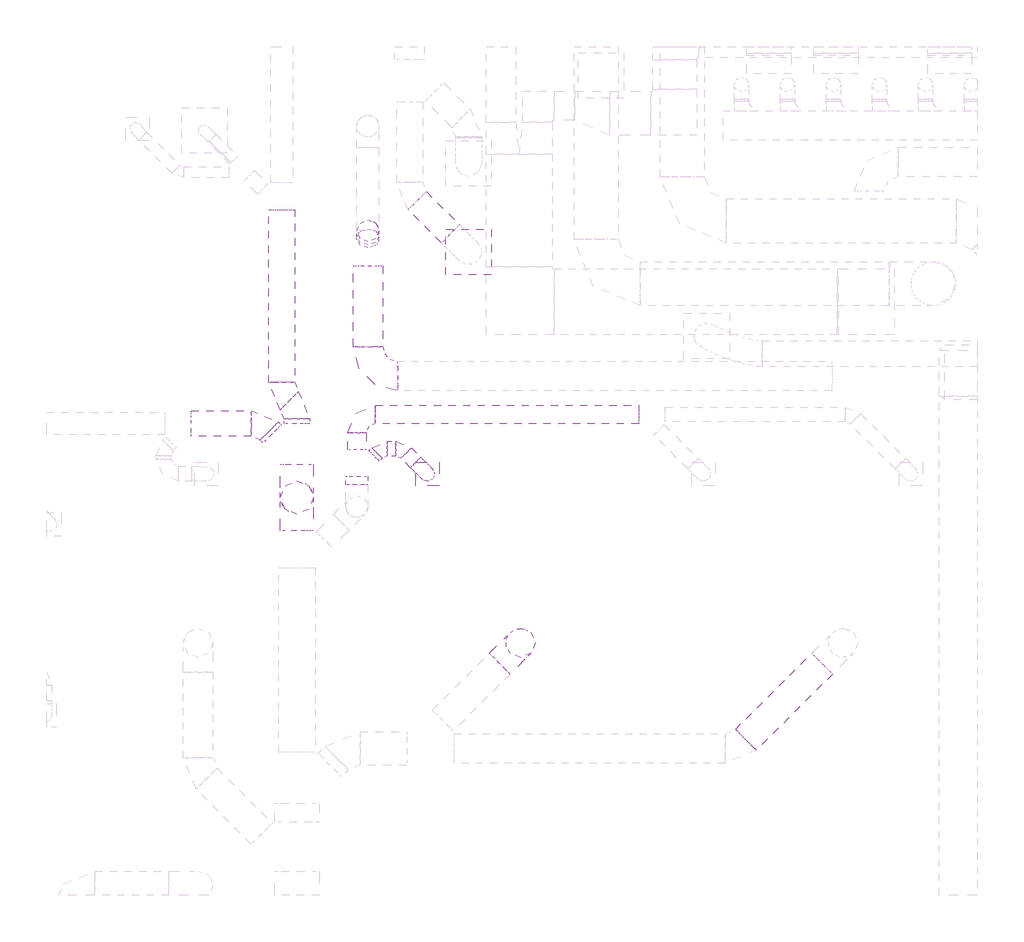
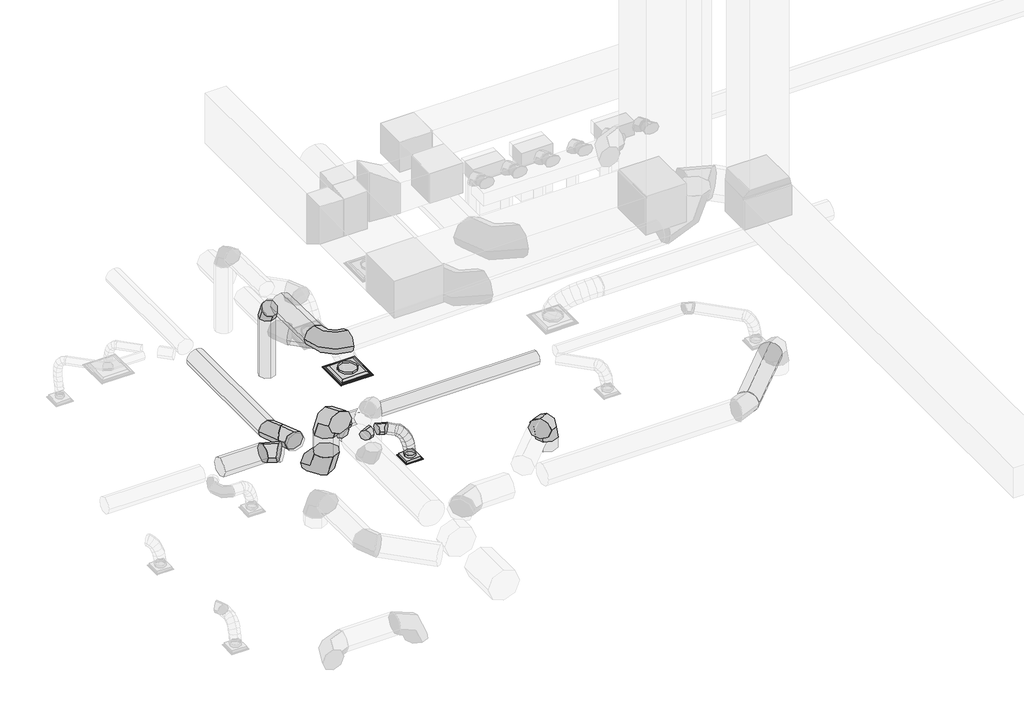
# One storey, part 9 of 33: 18 duct segments, 11 duct fittings, 2 air terminals.
"""IFC4 building model written with IfcOpenShell, lengths in millimetres."""

from ifc_helpers import new_model, si_unit, point, frame, frame_2d, origin, place, context, project, spatial, circle_curve, ellipse_curve, trimmed, segment, composite_curve, outline, extrude, transform, mapped, element, save
from ifc_brep_helpers import plane_surface, cylinder_surface, advanced_brep
from components import air_terminal_1ddfe03e, air_terminal_0721d01d, round_elbow_1_d_ed39a6e1, round_elbow_1_d_20c19032, round_elbow_1_d_8aca8b6e, round_elbow_1_d_146a3901, round_elbow_1_d_6fec3262, round_elbow_1_d_ab3aa7ba, round_elbow_1_d_f1b293c8

model = new_model("IFC4")

# Units and contexts
model_context = context("Model", 3, world=origin())
ifc_project = project(units=[si_unit("LENGTHUNIT", "METRE", prefix="MILLI")], contexts=[model_context])

# Site, building, storey
site = spatial("IfcSite", under=ifc_project)
building = spatial("IfcBuilding", under=site)
storey = spatial("IfcBuildingStorey", under=building, Name="T.O. SLAB - 1ST", Elevation=-25.4)

# Air terminals
placement = place(None, origin())
air_terminal_shape = air_terminal_1ddfe03e(model_context)
element("IfcAirTerminal", 1, ObjectType="Titus-Round_Neck_Supply_Diffuser-PCS_Surface_Mount : PCS AA-14_24x24", at=placement, inside=storey, context=model_context, shape_type="MappedRepresentation", body=[
    mapped(air_terminal_shape, transform((11455.4, 23456.8034288, 2717.8), x_axis=(0.0, -1.0, 0.0), y_axis=(-1.0, 0.0, 0.0), z_axis=(0.0, 0.0, -1.0))),
])
air_terminal_2_shape = air_terminal_0721d01d(model_context)
element("IfcAirTerminal", 2, ObjectType="Titus-Round_Neck_Supply_Diffuser-PCS_Surface_Mount : PCS AA-08_12x12", at=placement, inside=storey, context=model_context, shape_type="MappedRepresentation", body=[
    mapped(air_terminal_2_shape, transform((10884.0049003, 20392.8311449, 3022.6), x_axis=(1.0, 0.0, 0.0), y_axis=(0.0, -1.0, 0.0), z_axis=(0.0, 0.0, -1.0))),
])

# Duct fittings
round_elbow_1_d_shape = round_elbow_1_d_ed39a6e1(model_context)
element("IfcDuctFitting", 3, ObjectType="Round Elbow : 1 D", at=placement, inside=storey, context=model_context, shape_type="MappedRepresentation", body=[
    mapped(round_elbow_1_d_shape, transform((10064.75, 23748.1936947, 4263.7026636), x_axis=(0.0, 0.692225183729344, -0.7216815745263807), y_axis=(0.0, -0.7216815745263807, -0.692225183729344), z_axis=(-1.0, 0.0, 0.0))),
])
round_elbow_1_d_2_shape = round_elbow_1_d_20c19032(model_context)
element("IfcDuctFitting", 4, ObjectType="Round Elbow : 1 D", at=placement, inside=storey, context=model_context, shape_type="MappedRepresentation", body=[
    mapped(round_elbow_1_d_2_shape, transform((10064.75, 21745.3274801, 4719.4770963), x_axis=(0.0, -0.999999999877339, -1.566276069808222e-05), y_axis=(0.9997830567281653, -3.2623672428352e-07, 0.02082881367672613), z_axis=(-0.020828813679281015, -1.5659362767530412e-05, 0.9997830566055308))),
])
round_elbow_1_d_3_shape = round_elbow_1_d_8aca8b6e(model_context)
element("IfcDuctFitting", 5, ObjectType="Round Elbow : 1 D", at=placement, inside=storey, context=model_context, shape_type="MappedRepresentation", body=[
    mapped(round_elbow_1_d_3_shape, transform((12171.7949062, 18061.5163475, 4832.35), x_axis=(0.0, 0.0, 1.0), y_axis=(-0.7075361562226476, -0.7066771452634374, 0.0), z_axis=(0.7066771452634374, -0.7075361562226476, 0.0))),
])
round_elbow_1_d_4_shape = round_elbow_1_d_146a3901(model_context)
element("IfcDuctFitting", 6, ObjectType="Round Elbow : 1 D", at=placement, inside=storey, context=model_context, shape_type="MappedRepresentation", body=[
    mapped(round_elbow_1_d_4_shape, transform((8598.498594, 21089.8177486, 3530.6), x_axis=(-0.7071067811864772, 0.7071067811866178, 0.0), y_axis=(-0.7071067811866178, -0.7071067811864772, 0.0), z_axis=(0.0, 0.0, 1.0))),
])
element("IfcDuctFitting", 7, ObjectType="Round Elbow : 1 D", at=placement, inside=storey, context=model_context, shape_type="MappedRepresentation", body=[
    mapped(round_elbow_1_d_4_shape, transform((9084.7808702, 21300.5741915, 3530.6), x_axis=(0.0, 1.0, 0.0), y_axis=(-1.0, 0.0, 0.0), z_axis=(0.0, 0.0, 1.0))),
])
element("IfcDuctFitting", 8, ObjectType="Round Elbow : 1 D", at=placement, inside=storey, context=model_context, shape_type="MappedRepresentation", body=[
    mapped(round_elbow_1_d_4_shape, transform((8876.475213, 21508.8798487, 3530.6), x_axis=(0.0, -1.0, 0.0), y_axis=(1.0, 0.0, 0.0), z_axis=(0.0, 0.0, 1.0))),
])
round_elbow_1_d_5_shape = round_elbow_1_d_6fec3262(model_context)
element("IfcDuctFitting", 9, ObjectType="Round Elbow : 1 D", at=placement, inside=storey, context=model_context, shape_type="MappedRepresentation", body=[
    mapped(round_elbow_1_d_5_shape, transform((9912.239654, 21215.1568577, 3530.6), x_axis=(-1.0, 0.0, 0.0), y_axis=(0.0, -1.0, 0.0), z_axis=(0.0, 0.0, 1.0))),
])
round_elbow_1_d_6_shape = round_elbow_1_d_ab3aa7ba(model_context)
element("IfcDuctFitting", 10, ObjectType="Round Elbow : 1 D", at=placement, inside=storey, context=model_context, shape_type="MappedRepresentation", body=[
    mapped(round_elbow_1_d_6_shape, transform((10249.9603587, 20741.4649078, 3530.6), x_axis=(-1.0, 0.0, 0.0), y_axis=(0.0, -1.0, 0.0), z_axis=(0.0, 0.0, 1.0))),
])
element("IfcDuctFitting", 11, ObjectType="Round Elbow : 1 D", at=placement, inside=storey, context=model_context, shape_type="MappedRepresentation", body=[
    mapped(round_elbow_1_d_6_shape, transform((10534.229479, 20741.4649078, 3530.6), x_axis=(-0.7071067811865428, 0.7071067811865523, 0.0), y_axis=(-0.7071067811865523, -0.7071067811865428, 0.0), z_axis=(0.0, 0.0, 1.0))),
])
round_elbow_1_d_7_shape = round_elbow_1_d_f1b293c8(model_context)
element("IfcDuctFitting", 12, ObjectType="Round Elbow : 1 D", at=placement, inside=storey, context=model_context, shape_type="MappedRepresentation", body=[
    mapped(round_elbow_1_d_7_shape, transform((9084.7808702, 20068.1034636, 4832.35), x_axis=(0.0, 1.0, 0.0), y_axis=(0.0, 0.0, -1.0), z_axis=(-1.0, 0.0, 0.0))),
])
element("IfcDuctFitting", 13, ObjectType="Round Elbow : 1 D", at=placement, inside=storey, context=model_context, shape_type="MappedRepresentation", body=[
    mapped(round_elbow_1_d_7_shape, transform((9084.7808702, 20068.1034636, 3530.6), x_axis=(0.0, 0.0, -1.0), y_axis=(0.0, 1.0, 0.0), z_axis=(1.0, 0.0, 0.0))),
])

# Duct segments
element("IfcDuctSegment", 14, ObjectType="Flex - Round", at=placement, inside=storey, context=model_context, shape_type="AdvancedBrep", body=[
    advanced_brep(
    [(10794.9031176, 20624.4753671, 3530.6), (10723.0610686, 20552.6333181, 3429.0), (10651.2190197, 20480.7912692, 3530.6), (10723.0610686, 20552.6333181, 3632.2), (10813.9623399, 20605.4161449, 3530.6), (10726.9293043, 20548.7650825, 3429.0), (10670.3708762, 20461.6394127, 3530.6), (10757.4039117, 20518.2904751, 3632.2), (10955.6848348, 20464.8349433, 3117.85), (10956.0086987, 20321.1512103, 3117.85), (10812.3249657, 20320.8273465, 3117.85), (10812.0011019, 20464.5110794, 3117.85), (10845.2516527, 20574.2112087, 3510.9720908), (10733.6145356, 20542.097879, 3424.8063281), (10701.8015565, 20430.2934903, 3510.8834104), (10813.4386736, 20462.40682, 3597.049173), (10885.8084433, 20533.8656286, 3458.5724429), (10757.4093982, 20518.4269346, 3394.0632046), (10742.4381039, 20389.8685687, 3458.3807162), (10870.837149, 20405.3072628, 3522.8899545), (10916.8309708, 20503.1178168, 3383.2258257), (10779.416985, 20496.6142329, 3340.6118145), (10773.4895426, 20359.0921017, 3382.9638803), (10910.9035284, 20365.5956856, 3425.5778915), (10938.6179863, 20481.6056517, 3294.7597278), (10797.2762806, 20478.9802383, 3268.0942091), (10795.2754835, 20337.5809978, 3294.502146), (10936.6171891, 20340.2064112, 3321.1676647), (10951.4686114, 20468.9665349, 3203.0229329), (10808.3189988, 20468.1192721, 3189.263525), (10808.1151667, 20324.9526426, 3202.8434616), (10951.2647794, 20325.7999054, 3216.6028695), (10955.6848348, 20464.8349433, 3124.9070262), (10812.0011019, 20464.5110794, 3121.04351), (10812.3249657, 20320.8273465, 3124.8465827), (10956.0086987, 20321.1512103, 3128.7100989)],
    [
        (0, 1, circle_curve(frame((10723.0610686, 20552.6333181, 3530.6), z_axis=(-0.7071067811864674, 0.7071067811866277, 0.0), x_axis=(0.7071067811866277, 0.7071067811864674, 0.0)), 101.6)),
        (1, 2, circle_curve(frame((10723.0610686, 20552.6333181, 3530.6), z_axis=(-0.7071067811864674, 0.7071067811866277, 0.0), x_axis=(0.7071067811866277, 0.7071067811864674, 0.0)), 101.6)),
        (2, 3, circle_curve(frame((10723.0610686, 20552.6333181, 3530.6), z_axis=(-0.7071067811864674, 0.7071067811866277, 0.0), x_axis=(0.7071067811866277, 0.7071067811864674, 0.0)), 101.6)),
        (3, 0, circle_curve(frame((10723.0610686, 20552.6333181, 3530.6), z_axis=(-0.7071067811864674, 0.7071067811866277, 0.0), x_axis=(0.7071067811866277, 0.7071067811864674, 0.0)), 101.6)),
        (0, 4),
        (4, 5, ellipse_curve(frame((10742.166608, 20533.5277788, 3530.6), z_axis=(-0.6921655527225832, 0.6912736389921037, 0.2074791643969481), x_axis=(-0.14460797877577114, 0.14881322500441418, -0.9782347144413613)), 103.8600748, 101.6)),
        (5, 1),
        (5, 6, ellipse_curve(frame((10742.166608, 20533.5277788, 3530.6), z_axis=(-0.6921655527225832, 0.6912736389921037, 0.2074791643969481), x_axis=(-0.14460797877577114, 0.14881322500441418, -0.9782347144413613)), 103.8600748, 101.6)),
        (6, 2),
        (6, 7, ellipse_curve(frame((10742.166608, 20533.5277788, 3530.6), z_axis=(-0.6921655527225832, 0.6912736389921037, 0.2074791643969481), x_axis=(-0.14460797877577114, 0.14881322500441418, -0.9782347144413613)), 103.8600748, 101.6)),
        (7, 3),
        (7, 4, ellipse_curve(frame((10742.166608, 20533.5277788, 3530.6), z_axis=(-0.6921655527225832, 0.6912736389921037, 0.2074791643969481), x_axis=(-0.14460797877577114, 0.14881322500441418, -0.9782347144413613)), 103.8600748, 101.6)),
        (8, 9, circle_curve(frame((10884.0049003, 20392.8311449, 3117.85), z_axis=(0.0, 0.0, -1.0), x_axis=(0.7055111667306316, 0.7086988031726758, 0.0)), 101.6)),
        (9, 10, circle_curve(frame((10884.0049003, 20392.8311449, 3117.85), z_axis=(0.0, 0.0, -1.0), x_axis=(0.7055111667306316, 0.7086988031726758, 0.0)), 101.6)),
        (10, 11, circle_curve(frame((10884.0049003, 20392.8311449, 3117.85), z_axis=(0.0, 0.0, -1.0), x_axis=(0.7055111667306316, 0.7086988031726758, 0.0)), 101.6)),
        (11, 8, circle_curve(frame((10884.0049003, 20392.8311449, 3117.85), z_axis=(0.0, 0.0, -1.0), x_axis=(0.7055111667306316, 0.7086988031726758, 0.0)), 101.6)),
        (4, 12),
        (12, 13, ellipse_curve(frame((10773.5266046, 20502.2523495, 3510.9277506), z_axis=(-0.5926837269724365, 0.5904203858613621, 0.5478410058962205), x_axis=(-0.38586657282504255, 0.3889008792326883, -0.8365782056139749)), 102.9443578, 101.6)),
        (13, 5),
        (13, 14, ellipse_curve(frame((10773.5266046, 20502.2523495, 3510.9277506), z_axis=(-0.5926837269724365, 0.5904203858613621, 0.5478410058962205), x_axis=(-0.38586657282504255, 0.3889008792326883, -0.8365782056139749)), 102.9443578, 101.6)),
        (14, 6),
        (14, 15, ellipse_curve(frame((10773.5266046, 20502.2523495, 3510.9277506), z_axis=(-0.5926837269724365, 0.5904203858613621, 0.5478410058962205), x_axis=(-0.38586657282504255, 0.3889008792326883, -0.8365782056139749)), 102.9443578, 101.6)),
        (15, 7),
        (15, 12, ellipse_curve(frame((10773.5266046, 20502.2523495, 3510.9277506), z_axis=(-0.5926837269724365, 0.5904203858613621, 0.5478410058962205), x_axis=(-0.38586657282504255, 0.3889008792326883, -0.8365782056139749)), 102.9443578, 101.6)),
        (12, 16),
        (16, 17, ellipse_curve(frame((10814.1232736, 20461.8670987, 3458.4765796), z_axis=(-0.444618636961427, 0.4416459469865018, 0.7792708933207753), x_axis=(-0.5503164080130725, 0.5517428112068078, -0.6266831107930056)), 102.7840583, 101.6)),
        (17, 13),
        (17, 18, ellipse_curve(frame((10814.1232736, 20461.8670987, 3458.4765796), z_axis=(-0.444618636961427, 0.4416459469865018, 0.7792708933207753), x_axis=(-0.5503164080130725, 0.5517428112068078, -0.6266831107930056)), 102.7840583, 101.6)),
        (18, 14),
        (18, 19, ellipse_curve(frame((10814.1232736, 20461.8670987, 3458.4765796), z_axis=(-0.444618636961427, 0.4416459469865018, 0.7792708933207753), x_axis=(-0.5503164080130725, 0.5517428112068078, -0.6266831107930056)), 102.7840583, 101.6)),
        (19, 15),
        (19, 16, ellipse_curve(frame((10814.1232736, 20461.8670987, 3458.4765796), z_axis=(-0.444618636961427, 0.4416459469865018, 0.7792708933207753), x_axis=(-0.5503164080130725, 0.5517428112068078, -0.6266831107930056)), 102.7840583, 101.6)),
        (16, 20),
        (20, 21, ellipse_curve(frame((10845.1602567, 20431.1049592, 3383.094853), z_axis=(-0.29583299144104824, 0.29277372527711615, 0.9092669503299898), x_axis=(-0.6435186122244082, 0.6423806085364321, -0.41621022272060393)), 102.0708153, 101.6)),
        (21, 17),
        (21, 22, ellipse_curve(frame((10845.1602567, 20431.1049592, 3383.094853), z_axis=(-0.29583299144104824, 0.29277372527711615, 0.9092669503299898), x_axis=(-0.6435186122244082, 0.6423806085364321, -0.41621022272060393)), 102.0708153, 101.6)),
        (22, 18),
        (22, 23, ellipse_curve(frame((10845.1602567, 20431.1049592, 3383.094853), z_axis=(-0.29583299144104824, 0.29277372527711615, 0.9092669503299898), x_axis=(-0.6435186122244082, 0.6423806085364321, -0.41621022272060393)), 102.0708153, 101.6)),
        (23, 19),
        (23, 20, ellipse_curve(frame((10845.1602567, 20431.1049592, 3383.094853), z_axis=(-0.29583299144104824, 0.29277372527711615, 0.9092669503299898), x_axis=(-0.6435186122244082, 0.6423806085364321, -0.41621022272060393)), 102.0708153, 101.6)),
        (20, 24),
        (24, 25, ellipse_curve(frame((10866.9467349, 20409.5933247, 3294.6309369), z_axis=(-0.18554125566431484, 0.1829357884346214, 0.9654578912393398), x_axis=(-0.6850997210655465, 0.6802559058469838, -0.26055762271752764)), 101.8465218, 101.6)),
        (25, 21),
        (25, 26, ellipse_curve(frame((10866.9467349, 20409.5933247, 3294.6309369), z_axis=(-0.18554125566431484, 0.1829357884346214, 0.9654578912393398), x_axis=(-0.6850997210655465, 0.6802559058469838, -0.26055762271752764)), 101.8465218, 101.6)),
        (26, 22),
        (26, 27, ellipse_curve(frame((10866.9467349, 20409.5933247, 3294.6309369), z_axis=(-0.18554125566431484, 0.1829357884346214, 0.9654578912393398), x_axis=(-0.6850997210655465, 0.6802559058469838, -0.26055762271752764)), 101.8465218, 101.6)),
        (27, 23),
        (27, 24, ellipse_curve(frame((10866.9467349, 20409.5933247, 3294.6309369), z_axis=(-0.18554125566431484, 0.1829357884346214, 0.9654578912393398), x_axis=(-0.6850997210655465, 0.6802559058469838, -0.26055762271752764)), 101.8465218, 101.6)),
        (24, 28),
        (28, 29, ellipse_curve(frame((10879.7918891, 20396.9595888, 3202.9331972), z_axis=(-0.09580530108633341, 0.09413102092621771, 0.9909392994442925), x_axis=(-0.7056688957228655, 0.6956954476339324, -0.13431028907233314)), 101.7788553, 101.6)),
        (29, 25),
        (29, 30, ellipse_curve(frame((10879.7918891, 20396.9595888, 3202.9331972), z_axis=(-0.09580530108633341, 0.09413102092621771, 0.9909392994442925), x_axis=(-0.7056688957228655, 0.6956954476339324, -0.13431028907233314)), 101.7788553, 101.6)),
        (30, 26),
        (30, 31, ellipse_curve(frame((10879.7918891, 20396.9595888, 3202.9331972), z_axis=(-0.09580530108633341, 0.09413102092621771, 0.9909392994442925), x_axis=(-0.7056688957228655, 0.6956954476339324, -0.13431028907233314)), 101.7788553, 101.6)),
        (31, 27),
        (31, 28, ellipse_curve(frame((10879.7918891, 20396.9595888, 3202.9331972), z_axis=(-0.09580530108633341, 0.09413102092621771, 0.9909392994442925), x_axis=(-0.7056688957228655, 0.6956954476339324, -0.13431028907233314)), 101.7788553, 101.6)),
        (28, 32),
        (32, 33, ellipse_curve(frame((10884.0049003, 20392.8311449, 3124.8768044), z_axis=(-0.026929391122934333, 0.026388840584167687, 0.9992889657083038), x_axis=(-0.7137310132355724, 0.6994043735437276, -0.03770362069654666)), 101.6722925, 101.6)),
        (33, 29),
        (33, 34, ellipse_curve(frame((10884.0049003, 20392.8311449, 3124.8768044), z_axis=(-0.026929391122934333, 0.026388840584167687, 0.9992889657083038), x_axis=(-0.7137310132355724, 0.6994043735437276, -0.03770362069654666)), 101.6722925, 101.6)),
        (34, 30),
        (34, 35, ellipse_curve(frame((10884.0049003, 20392.8311449, 3124.8768044), z_axis=(-0.026929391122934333, 0.026388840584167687, 0.9992889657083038), x_axis=(-0.7137310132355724, 0.6994043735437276, -0.03770362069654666)), 101.6722925, 101.6)),
        (35, 31),
        (35, 32, ellipse_curve(frame((10884.0049003, 20392.8311449, 3124.8768044), z_axis=(-0.026929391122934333, 0.026388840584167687, 0.9992889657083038), x_axis=(-0.7137310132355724, 0.6994043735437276, -0.03770362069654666)), 101.6722925, 101.6)),
        (32, 8),
        (11, 33),
        (10, 34),
        (9, 35),
    ],
    [
        plane_surface(frame((10723.0610686, 20552.6333181, 3429.0), z_axis=(-0.7071067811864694, 0.7071067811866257, 0.0), x_axis=(0.7071067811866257, 0.7071067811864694, 0.0))),
        cylinder_surface(frame((10723.0610686, 20552.6333181, 3530.6), z_axis=(-0.7071067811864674, 0.7071067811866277, 0.0), x_axis=(0.7071067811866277, 0.7071067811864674, 0.0)), 101.6),
        plane_surface(frame((10884.0049003, 20291.2311449, 3117.85), z_axis=(0.0, 0.0, -1.0), x_axis=(-1.0, 0.0, 0.0))),
        cylinder_surface(frame((10742.166608, 20533.5277788, 3530.6), z_axis=(-0.6471002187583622, 0.6453552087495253, 0.4059285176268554), x_axis=(0.7062337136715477, 0.7079787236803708, 0.000261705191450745)), 101.6),
        cylinder_surface(frame((10773.5266046, 20502.2523495, 3510.9277506), z_axis=(-0.5227874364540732, 0.5200648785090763, 0.6754449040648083), x_axis=(0.7057301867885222, 0.7084803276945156, 0.000727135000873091)), 101.6),
        cylinder_surface(frame((10814.1232736, 20461.8670987, 3458.4765796), z_axis=(-0.35620594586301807, 0.35305161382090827, 0.8651426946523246), x_axis=(0.7054485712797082, 0.7087600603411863, 0.0012207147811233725)), 101.6),
        cylinder_surface(frame((10845.1602567, 20431.1049592, 3383.094853), z_axis=(-0.2327308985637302, 0.22979492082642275, 0.9450029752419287), x_axis=(0.7054020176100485, 0.7088061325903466, 0.0013638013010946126)), 101.6),
        cylinder_surface(frame((10866.9467349, 20409.5933247, 3294.6309369), z_axis=(-0.13745339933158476, 0.13519105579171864, 0.9812389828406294), x_axis=(0.7054396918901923, 0.7087689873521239, 0.0011677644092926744)), 101.6),
        cylinder_surface(frame((10879.7918891, 20396.9595888, 3202.9331972), z_axis=(-0.05382048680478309, 0.052740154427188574, 0.9971568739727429), x_axis=(0.7054951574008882, 0.7087144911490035, 0.0005940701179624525)), 101.6),
        cylinder_surface(frame((10884.0049003, 20392.8311449, 3124.8768044), z_axis=(0.0, 0.0, 1.0), x_axis=(0.7055111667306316, 0.7086988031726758, 0.0)), 101.6),
    ],
    [
        (0, [[1, 2, 3, 4]]),
        (1, [[-1, 5, 6, 7]]),
        (1, [[-2, -7, 8, 9]]),
        (1, [[-3, -9, 10, 11]]),
        (1, [[-4, -11, 12, -5]]),
        (2, [[13, 14, 15, 16]]),
        (3, [[-6, 17, 18, 19]]),
        (3, [[-8, -19, 20, 21]]),
        (3, [[-10, -21, 22, 23]]),
        (3, [[-12, -23, 24, -17]]),
        (4, [[-18, 25, 26, 27]]),
        (4, [[-20, -27, 28, 29]]),
        (4, [[-22, -29, 30, 31]]),
        (4, [[-24, -31, 32, -25]]),
        (5, [[-26, 33, 34, 35]]),
        (5, [[-28, -35, 36, 37]]),
        (5, [[-30, -37, 38, 39]]),
        (5, [[-32, -39, 40, -33]]),
        (6, [[-34, 41, 42, 43]]),
        (6, [[-36, -43, 44, 45]]),
        (6, [[-38, -45, 46, 47]]),
        (6, [[-40, -47, 48, -41]]),
        (7, [[-42, 49, 50, 51]]),
        (7, [[-44, -51, 52, 53]]),
        (7, [[-46, -53, 54, 55]]),
        (7, [[-48, -55, 56, -49]]),
        (8, [[-50, 57, 58, 59]]),
        (8, [[-52, -59, 60, 61]]),
        (8, [[-54, -61, 62, 63]]),
        (8, [[-56, -63, 64, -57]]),
        (9, [[-58, 65, -16, 66]]),
        (9, [[-60, -66, -15, 67]]),
        (9, [[-62, -67, -14, 68]]),
        (9, [[-64, -68, -13, -65]]),
    ],
),
])
element("IfcDuctSegment", 15, ObjectType="Taps", at=placement, inside=storey, context=model_context, shape_type="SweptSolid", body=[
    extrude(outline(composite_curve([segment(trimmed(circle_curve(frame_2d((0.0, 203.2)), 203.2), [point((203.2, 203.2))], [point((0.0, 0.0))], False, "CARTESIAN"), True, "CONTINUOUS"), segment(trimmed(circle_curve(frame_2d((0.0, 203.2)), 203.2), [point((0.0, 0.0))], [point((-203.2, 203.2))], False, "CARTESIAN"), True, "CONTINUOUS"), segment(trimmed(circle_curve(frame_2d((0.0, 203.2)), 203.2), [point((-203.2, 203.2))], [point((0.0, 406.4))], False, "CARTESIAN"), True, "CONTINUOUS"), segment(trimmed(circle_curve(frame_2d((0.0, 203.2)), 203.2), [point((0.0, 406.4))], [point((203.2, 203.2))], False, "CARTESIAN"), True, "CONTINUOUS")], self_intersect=False)), frame((15282.082352, 16722.930735, 5035.55), z_axis=(0.7073950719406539, 0.7068183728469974, 0.0), x_axis=(0.7068183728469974, -0.7073950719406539, 0.0)), (0.0, 0.0, 1.0), 1487.4996041),
])
element("IfcDuctSegment", 16, ObjectType="Taps", at=placement, inside=storey, context=model_context, shape_type="SweptSolid", body=[
    extrude(outline(composite_curve([segment(trimmed(circle_curve(frame_2d((12171.6204612, 18061.6910045)), 203.2), [point((12315.2172571, 17917.9196576))], [point((12027.8491143, 17918.0942086))], False, "CARTESIAN"), True, "CONTINUOUS"), segment(trimmed(circle_curve(frame_2d((12171.6204612, 18061.6910045)), 203.2), [point((12027.8491143, 17918.0942086))], [point((12028.0236653, 18205.4623515))], False, "CARTESIAN"), True, "CONTINUOUS"), segment(trimmed(circle_curve(frame_2d((12171.6204612, 18061.6910045)), 203.2), [point((12028.0236653, 18205.4623515))], [point((12315.3918082, 18205.2878004))], False, "CARTESIAN"), True, "CONTINUOUS"), segment(trimmed(circle_curve(frame_2d((12171.6204612, 18061.6910045)), 203.2), [point((12315.3918082, 18205.2878004))], [point((12315.2172571, 17917.9196576))], False, "CARTESIAN"), True, "CONTINUOUS")], self_intersect=False)), frame((0.0, 0.0, 4216.4), z_axis=(0.0, 0.0, 1.0), x_axis=(1.0, 0.0, 0.0)), (0.0, 0.0, 1.0), 209.55),
])
element("IfcDuctSegment", 17, ObjectType="Taps", at=placement, inside=storey, context=model_context, shape_type="SweptSolid", body=[
    extrude(outline(composite_curve([segment(trimmed(circle_curve(frame_2d((9084.7808702, 20068.1034636)), 228.6), [point((9313.3808702, 20068.1034636))], [point((9084.7808702, 19839.5034636))], False, "CARTESIAN"), True, "CONTINUOUS"), segment(trimmed(circle_curve(frame_2d((9084.7808702, 20068.1034636)), 228.6), [point((9084.7808702, 19839.5034636))], [point((8856.1808702, 20068.1034636))], False, "CARTESIAN"), True, "CONTINUOUS"), segment(trimmed(circle_curve(frame_2d((9084.7808702, 20068.1034636)), 228.6), [point((8856.1808702, 20068.1034636))], [point((9084.7808702, 20296.7034636))], False, "CARTESIAN"), True, "CONTINUOUS"), segment(trimmed(circle_curve(frame_2d((9084.7808702, 20068.1034636)), 228.6), [point((9084.7808702, 20296.7034636))], [point((9313.3808702, 20068.1034636))], False, "CARTESIAN"), True, "CONTINUOUS")], self_intersect=False)), frame((0.0, 0.0, 3987.8), z_axis=(0.0, 0.0, 1.0), x_axis=(1.0, 0.0, 0.0)), (0.0, 0.0, 1.0), 387.35),
])
element("IfcDuctSegment", 18, ObjectType="Taps", at=placement, inside=storey, context=model_context, shape_type="SweptSolid", body=[
    extrude(outline(composite_curve([segment(trimmed(circle_curve(frame_2d((21089.8177486, 3530.6)), 177.8), [point((20912.0177486, 3530.6))], [point((21089.8177486, 3708.4))], False, "CARTESIAN"), True, "CONTINUOUS"), segment(trimmed(circle_curve(frame_2d((21089.8177486, 3530.6)), 177.8), [point((21089.8177486, 3708.4))], [point((21267.6177486, 3530.6))], False, "CARTESIAN"), True, "CONTINUOUS"), segment(trimmed(circle_curve(frame_2d((21089.8177486, 3530.6)), 177.8), [point((21267.6177486, 3530.6))], [point((21089.8177486, 3352.8))], False, "CARTESIAN"), True, "CONTINUOUS"), segment(trimmed(circle_curve(frame_2d((21089.8177486, 3530.6)), 177.8), [point((21089.8177486, 3352.8))], [point((20912.0177486, 3530.6))], False, "CARTESIAN"), True, "CONTINUOUS")], self_intersect=False)), frame((7628.6846681, 0.0, 0.0), z_axis=(1.0, 0.0, 0.0), x_axis=(0.0, 1.0, 0.0)), (0.0, 0.0, 1.0), 822.5195832),
])
element("IfcDuctSegment", 19, ObjectType="Taps", at=placement, inside=storey, context=model_context, shape_type="SweptSolid", body=[
    extrude(outline(composite_curve([segment(trimmed(circle_curve(frame_2d((0.0, 177.8)), 177.8), [point((177.7999999, 177.8))], [point((0.0, 0.0))], False, "CARTESIAN"), True, "CONTINUOUS"), segment(trimmed(circle_curve(frame_2d((0.0, 177.8)), 177.8), [point((0.0, 0.0))], [point((-177.8, 177.8))], False, "CARTESIAN"), True, "CONTINUOUS"), segment(trimmed(circle_curve(frame_2d((0.0, 177.8)), 177.8), [point((-177.8, 177.8))], [point((0.0, 355.6))], False, "CARTESIAN"), True, "CONTINUOUS"), segment(trimmed(circle_curve(frame_2d((0.0, 177.8)), 177.8), [point((0.0, 355.6))], [point((177.7999999, 177.8))], False, "CARTESIAN"), True, "CONTINUOUS")], self_intersect=False)), frame((8740.7514227, 20947.56492, 3708.4), z_axis=(-0.7071067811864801, 0.7071067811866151, 0.0), x_axis=(0.7071067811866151, 0.7071067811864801, 0.0)), (0.0, 0.0, 1.0), 53.8815367),
])
element("IfcDuctSegment", 20, ObjectType="Taps", at=placement, inside=storey, context=model_context, shape_type="SweptSolid", body=[
    extrude(outline(composite_curve([segment(trimmed(circle_curve(frame_2d((3530.6, 9912.239654)), 152.4), [point((3530.6, 10064.639654))], [point((3683.0, 9912.239654))], False, "CARTESIAN"), True, "CONTINUOUS"), segment(trimmed(circle_curve(frame_2d((3530.6, 9912.239654)), 152.4), [point((3683.0, 9912.239654))], [point((3530.6, 9759.839654))], False, "CARTESIAN"), True, "CONTINUOUS"), segment(trimmed(circle_curve(frame_2d((3530.6, 9912.239654)), 152.4), [point((3530.6, 9759.839654))], [point((3378.2, 9912.239654))], False, "CARTESIAN"), True, "CONTINUOUS"), segment(trimmed(circle_curve(frame_2d((3530.6, 9912.239654)), 152.4), [point((3378.2, 9912.239654))], [point((3530.6, 10064.639654))], False, "CARTESIAN"), True, "CONTINUOUS")], self_intersect=False)), frame((0.0, 20245.7173696, 0.0), z_axis=(0.0, 1.0, 0.0), x_axis=(0.0, 0.0, 1.0)), (0.0, 0.0, 1.0), 112.4603994),
])
element("IfcDuctSegment", 21, ObjectType="Taps", at=placement, inside=storey, context=model_context, shape_type="SweptSolid", body=[
    extrude(outline(composite_curve([segment(trimmed(circle_curve(frame_2d((0.0, 101.6)), 101.6), [point((101.6, 101.6))], [point((0.0, 0.0))], False, "CARTESIAN"), True, "CONTINUOUS"), segment(trimmed(circle_curve(frame_2d((0.0, 101.6)), 101.6), [point((0.0, 0.0))], [point((-101.5999999, 101.6))], False, "CARTESIAN"), True, "CONTINUOUS"), segment(trimmed(circle_curve(frame_2d((0.0, 101.6)), 101.6), [point((-101.5999999, 101.6))], [point((0.0, 203.2))], False, "CARTESIAN"), True, "CONTINUOUS"), segment(trimmed(circle_curve(frame_2d((0.0, 101.6)), 101.6), [point((0.0, 203.2))], [point((101.6, 101.6))], False, "CARTESIAN"), True, "CONTINUOUS")], self_intersect=False)), frame((10150.4850636, 20641.9896128, 3632.2), z_axis=(0.7071067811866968, 0.7071067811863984, 0.0), x_axis=(0.7071067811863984, -0.7071067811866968, 0.0)), (0.0, 0.0, 1.0), 56.5111156),
])
element("IfcDuctSegment", 22, ObjectType="Taps", at=placement, inside=storey, context=model_context, shape_type="SweptSolid", body=[
    extrude(outline(composite_curve([segment(trimmed(circle_curve(frame_2d((20741.4649078, 3530.6)), 101.6), [point((20639.8649078, 3530.6))], [point((20741.4649078, 3632.2))], False, "CARTESIAN"), True, "CONTINUOUS"), segment(trimmed(circle_curve(frame_2d((20741.4649078, 3530.6)), 101.6), [point((20741.4649078, 3632.2))], [point((20843.0649078, 3530.6))], False, "CARTESIAN"), True, "CONTINUOUS"), segment(trimmed(circle_curve(frame_2d((20741.4649078, 3530.6)), 101.6), [point((20843.0649078, 3530.6))], [point((20741.4649078, 3429.0))], False, "CARTESIAN"), True, "CONTINUOUS"), segment(trimmed(circle_curve(frame_2d((20741.4649078, 3530.6)), 101.6), [point((20741.4649078, 3429.0))], [point((20639.8649078, 3530.6))], False, "CARTESIAN"), True, "CONTINUOUS")], self_intersect=False)), frame((10334.1285546, 0.0, 0.0), z_axis=(1.0, 0.0, 0.0), x_axis=(0.0, 1.0, 0.0)), (0.0, 0.0, 1.0), 115.9327285),
])
element("IfcDuctSegment", 23, ObjectType="Taps", at=placement, inside=storey, context=model_context, shape_type="SweptSolid", body=[
    extrude(outline(composite_curve([segment(trimmed(circle_curve(frame_2d((0.0, -101.6)), 101.6), [point((-101.5999999, -101.6))], [point((0.0, 0.0))], False, "CARTESIAN"), True, "CONTINUOUS"), segment(trimmed(circle_curve(frame_2d((0.0, -101.6)), 101.6), [point((0.0, 0.0))], [point((101.6, -101.6))], False, "CARTESIAN"), True, "CONTINUOUS"), segment(trimmed(circle_curve(frame_2d((0.0, -101.6)), 101.6), [point((101.6, -101.6))], [point((0.0, -203.2))], False, "CARTESIAN"), True, "CONTINUOUS"), segment(trimmed(circle_curve(frame_2d((0.0, -101.6)), 101.6), [point((0.0, -203.2))], [point((-101.5999999, -101.6))], False, "CARTESIAN"), True, "CONTINUOUS")], self_intersect=False)), frame((10723.0610686, 20552.6333181, 3429.0), z_axis=(-0.7071067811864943, 0.7071067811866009, 0.0), x_axis=(0.7071067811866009, 0.7071067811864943, 0.0)), (0.0, 0.0, 1.0), 182.8799993),
])
element("IfcDuctSegment", 24, ObjectType="Taps", at=placement, inside=storey, context=model_context, shape_type="SweptSolid", body=[
    extrude(outline(composite_curve([segment(trimmed(circle_curve(frame_2d((3530.6, 9912.239654)), 127.0), [point((3530.6, 10039.239654))], [point((3657.6, 9912.239654))], False, "CARTESIAN"), True, "CONTINUOUS"), segment(trimmed(circle_curve(frame_2d((3530.6, 9912.239654)), 127.0), [point((3657.6, 9912.239654))], [point((3530.6, 9785.239654))], False, "CARTESIAN"), True, "CONTINUOUS"), segment(trimmed(circle_curve(frame_2d((3530.6, 9912.239654)), 127.0), [point((3530.6, 9785.239654))], [point((3403.6, 9912.239654))], False, "CARTESIAN"), True, "CONTINUOUS"), segment(trimmed(circle_curve(frame_2d((3530.6, 9912.239654)), 127.0), [point((3403.6, 9912.239654))], [point((3530.6, 10039.239654))], False, "CARTESIAN"), True, "CONTINUOUS")], self_intersect=False)), frame((0.0, 20728.7106372, 0.0), z_axis=(0.0, 1.0, 0.0), x_axis=(0.0, 0.0, 1.0)), (0.0, 0.0, 1.0), 232.4462204),
])
element("IfcDuctSegment", 25, ObjectType="Taps", at=placement, inside=storey, context=model_context, shape_type="SweptSolid", body=[
    extrude(outline(composite_curve([segment(trimmed(circle_curve(frame_2d((21215.1568577, 3530.6)), 127.0), [point((21088.1568577, 3530.6))], [point((21215.1568577, 3657.6))], False, "CARTESIAN"), True, "CONTINUOUS"), segment(trimmed(circle_curve(frame_2d((21215.1568577, 3530.6)), 127.0), [point((21215.1568577, 3657.6))], [point((21342.1568577, 3530.6))], False, "CARTESIAN"), True, "CONTINUOUS"), segment(trimmed(circle_curve(frame_2d((21215.1568577, 3530.6)), 127.0), [point((21342.1568577, 3530.6))], [point((21215.1568577, 3403.6))], False, "CARTESIAN"), True, "CONTINUOUS"), segment(trimmed(circle_curve(frame_2d((21215.1568577, 3530.6)), 127.0), [point((21215.1568577, 3403.6))], [point((21088.1568577, 3530.6))], False, "CARTESIAN"), True, "CONTINUOUS")], self_intersect=False)), frame((10166.239654, 0.0, 0.0), z_axis=(1.0, 0.0, 0.0), x_axis=(0.0, 1.0, 0.0)), (0.0, 0.0, 1.0), 3633.5960631),
])
element("IfcDuctSegment", 26, ObjectType="Taps", at=placement, inside=storey, context=model_context, shape_type="SweptSolid", body=[
    extrude(outline(composite_curve([segment(trimmed(circle_curve(frame_2d((3530.6, 9084.7808702)), 177.8), [point((3530.6, 9262.5808702))], [point((3708.4, 9084.7808702))], False, "CARTESIAN"), True, "CONTINUOUS"), segment(trimmed(circle_curve(frame_2d((3530.6, 9084.7808702)), 177.8), [point((3708.4, 9084.7808702))], [point((3530.6, 8906.9808702))], False, "CARTESIAN"), True, "CONTINUOUS"), segment(trimmed(circle_curve(frame_2d((3530.6, 9084.7808702)), 177.8), [point((3530.6, 8906.9808702))], [point((3352.8, 9084.7808702))], False, "CARTESIAN"), True, "CONTINUOUS"), segment(trimmed(circle_curve(frame_2d((3530.6, 9084.7808702)), 177.8), [point((3352.8, 9084.7808702))], [point((3530.6, 9262.5808702))], False, "CARTESIAN"), True, "CONTINUOUS")], self_intersect=False)), frame((0.0, 21088.1674812, 0.0), z_axis=(0.0, 1.0, 0.0), x_axis=(0.0, 0.0, 1.0)), (0.0, 0.0, 1.0), 65.1123675),
])
element("IfcDuctSegment", 27, ObjectType="Taps", at=placement, inside=storey, context=model_context, shape_type="SweptSolid", body=[
    extrude(outline(composite_curve([segment(trimmed(circle_curve(frame_2d((3530.6, 8876.475213)), 177.8), [point((3530.6, 9054.275213))], [point((3708.4, 8876.475213))], False, "CARTESIAN"), True, "CONTINUOUS"), segment(trimmed(circle_curve(frame_2d((3530.6, 8876.475213)), 177.8), [point((3708.4, 8876.475213))], [point((3530.6, 8698.675213))], False, "CARTESIAN"), True, "CONTINUOUS"), segment(trimmed(circle_curve(frame_2d((3530.6, 8876.475213)), 177.8), [point((3530.6, 8698.675213))], [point((3352.8, 8876.475213))], False, "CARTESIAN"), True, "CONTINUOUS"), segment(trimmed(circle_curve(frame_2d((3530.6, 8876.475213)), 177.8), [point((3352.8, 8876.475213))], [point((3530.6, 9054.275213))], False, "CARTESIAN"), True, "CONTINUOUS")], self_intersect=False)), frame((0.0, 21656.1741915, 0.0), z_axis=(0.0, 1.0, 0.0), x_axis=(0.0, 0.0, 1.0)), (0.0, 0.0, 1.0), 2386.3993581),
])
element("IfcDuctSegment", 28, ObjectType="Taps", at=placement, inside=storey, context=model_context, shape_type="SweptSolid", body=[
    extrude(outline(composite_curve([segment(trimmed(circle_curve(frame_2d((0.0, -177.8)), 177.8), [point((-177.8, -177.8))], [point((0.0, 0.0))], False, "CARTESIAN"), True, "CONTINUOUS"), segment(trimmed(circle_curve(frame_2d((0.0, -177.8)), 177.8), [point((0.0, 0.0))], [point((177.8, -177.8))], False, "CARTESIAN"), True, "CONTINUOUS"), segment(trimmed(circle_curve(frame_2d((0.0, -177.8)), 177.8), [point((177.8, -177.8))], [point((0.0, -355.6))], False, "CARTESIAN"), True, "CONTINUOUS"), segment(trimmed(circle_curve(frame_2d((0.0, -177.8)), 177.8), [point((0.0, -355.6))], [point((-177.8, -177.8))], False, "CARTESIAN"), True, "CONTINUOUS")], self_intersect=False)), frame((11203.9528331, 23708.2455658, 3098.8), z_axis=(-0.7071067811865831, 0.707106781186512, 0.0), x_axis=(0.707106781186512, 0.7071067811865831, 0.0)), (0.0, 0.0, 1.0), 648.3764626),
])
element("IfcDuctSegment", 29, ObjectType="Taps", at=placement, inside=storey, context=model_context, shape_type="SweptSolid", body=[
    extrude(outline(composite_curve([segment(trimmed(circle_curve(frame_2d((10064.75, 23748.1936947)), 152.4), [point((10064.75, 23900.5936947))], [point((10217.15, 23748.1936947))], False, "CARTESIAN"), True, "CONTINUOUS"), segment(trimmed(circle_curve(frame_2d((10064.75, 23748.1936947)), 152.4), [point((10217.15, 23748.1936947))], [point((10064.75, 23595.7936947))], False, "CARTESIAN"), True, "CONTINUOUS"), segment(trimmed(circle_curve(frame_2d((10064.75, 23748.1936947)), 152.4), [point((10064.75, 23595.7936947))], [point((9912.35, 23748.1936947))], False, "CARTESIAN"), True, "CONTINUOUS"), segment(trimmed(circle_curve(frame_2d((10064.75, 23748.1936947)), 152.4), [point((9912.35, 23748.1936947))], [point((10064.75, 23900.5936947))], False, "CARTESIAN"), True, "CONTINUOUS")], self_intersect=False)), frame((0.0, 0.0, 2967.9720895), z_axis=(0.0, 0.0, 1.0), x_axis=(1.0, 0.0, 0.0)), (0.0, 0.0, 1.0), 1173.1816434),
])
element("IfcDuctSegment", 30, ObjectType="Taps", at=placement, inside=storey, context=model_context, shape_type="SweptSolid", body=[
    extrude(outline(composite_curve([segment(trimmed(circle_curve(frame_2d((0.0, 203.2000001)), 203.2), [point((-203.2, 203.2000001))], [point((0.0, 406.4))], False, "CARTESIAN"), True, "CONTINUOUS"), segment(trimmed(circle_curve(frame_2d((0.0, 203.2000001)), 203.2), [point((0.0, 406.4))], [point((203.2, 203.2000001))], False, "CARTESIAN"), True, "CONTINUOUS"), segment(trimmed(circle_curve(frame_2d((0.0, 203.2000001)), 203.2), [point((203.2, 203.2000001))], [point((0.0, 0.0))], False, "CARTESIAN"), True, "CONTINUOUS"), segment(trimmed(circle_curve(frame_2d((0.0, 203.2000001)), 203.2), [point((0.0, 0.0))], [point((-203.2, 203.2000001))], False, "CARTESIAN"), True, "CONTINUOUS")], self_intersect=False)), frame((10064.75, 23260.5892698, 4494.6502185), z_axis=(0.0, -0.9997830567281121, 0.02082881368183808), x_axis=(1.0, 0.0, 0.0)), (0.0, 0.0, 1.0), 1115.9203865),
])
element("IfcDuctSegment", 31, ObjectType="Taps", at=placement, inside=storey, context=model_context, shape_type="SweptSolid", body=[
    extrude(outline(composite_curve([segment(trimmed(circle_curve(frame_2d((0.0, -152.4)), 152.4), [point((152.4, -152.4))], [point((0.0, -304.8))], False, "CARTESIAN"), True, "CONTINUOUS"), segment(trimmed(circle_curve(frame_2d((0.0, -152.4)), 152.4), [point((0.0, -304.8))], [point((-152.4, -152.4))], False, "CARTESIAN"), True, "CONTINUOUS"), segment(trimmed(circle_curve(frame_2d((0.0, -152.4)), 152.4), [point((-152.4, -152.4))], [point((0.0, 0.0))], False, "CARTESIAN"), True, "CONTINUOUS"), segment(trimmed(circle_curve(frame_2d((0.0, -152.4)), 152.4), [point((0.0, 0.0))], [point((152.4, -152.4))], False, "CARTESIAN"), True, "CONTINUOUS")], self_intersect=False)), frame((10064.75, 23773.3465106, 4457.6390869), z_axis=(0.0, -0.692225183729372, 0.7216815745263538), x_axis=(1.0, 0.0, 0.0)), (0.0, 0.0, 1.0), 50.8555785),
])

save(model, "model.ifc")
